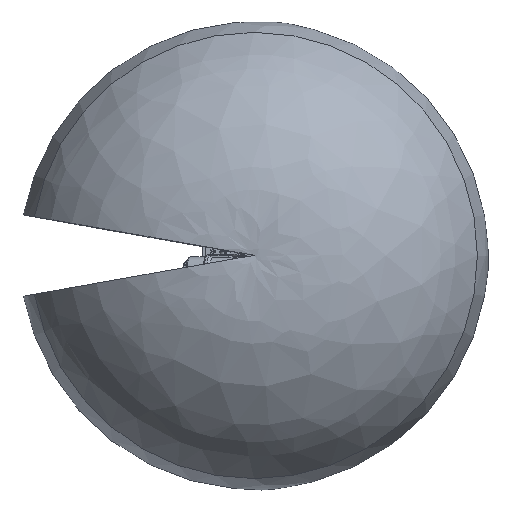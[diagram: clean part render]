
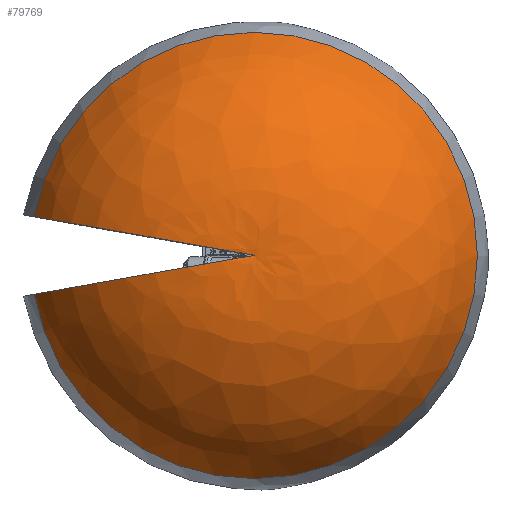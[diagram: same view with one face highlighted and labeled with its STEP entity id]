
A CAD part, top view. The second image highlights one B-rep face of the part: STEP entity #79769.
In plain terms, the highlighted free-form (B-spline) face has degree [2, 2] with [3, 9] control points.
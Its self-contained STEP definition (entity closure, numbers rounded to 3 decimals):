
#509=(
BOUNDED_SURFACE()
B_SPLINE_SURFACE(2,2,((#251605,#251606,#251607,#251608,#251609,#251610,
#251611,#251612,#251613),(#251614,#251615,#251616,#251617,#251618,#251619,
#251620,#251621,#251622),(#251623,#251624,#251625,#251626,#251627,#251628,
#251629,#251630,#251631)),.UNSPECIFIED.,.F.,.F.,.F.)
B_SPLINE_SURFACE_WITH_KNOTS((3,3),(3,2,2,2,3),(0.436,1.705),
(-2.967,-1.484,0.,1.484,
2.967),.UNSPECIFIED.)
GEOMETRIC_REPRESENTATION_ITEM()
RATIONAL_B_SPLINE_SURFACE(((1.,0.737,1.,0.737,1.,
0.737,1.,0.737,1.),(0.806,0.594,
0.806,0.594,0.806,0.594,
0.806,0.594,0.806),(1.,0.737,
1.,0.737,1.,0.737,1.,0.737,1.)))
REPRESENTATION_ITEM('')
SURFACE()
);
#10885=FACE_OUTER_BOUND('',#16760,.T.);
#16760=EDGE_LOOP('',(#74314,#74315,#74316));
#33736=CIRCLE('',#87196,2725.534);
#33737=CIRCLE('',#87197,2621.112);
#33738=CIRCLE('',#87198,2621.112);
#41333=VERTEX_POINT('',#251632);
#41334=VERTEX_POINT('',#251633);
#41335=VERTEX_POINT('',#251635);
#52328=EDGE_CURVE('',#41333,#41334,#33736,.T.);
#52329=EDGE_CURVE('',#41335,#41334,#33737,.T.);
#52330=EDGE_CURVE('',#41335,#41333,#33738,.T.);
#74314=ORIENTED_EDGE('',*,*,#52328,.T.);
#74315=ORIENTED_EDGE('',*,*,#52329,.F.);
#74316=ORIENTED_EDGE('',*,*,#52330,.T.);
#79769=ADVANCED_FACE('',(#10885),#509,.F.);
#87196=AXIS2_PLACEMENT_3D('',#251634,#108103,#108104);
#87197=AXIS2_PLACEMENT_3D('',#251636,#108105,#108106);
#87198=AXIS2_PLACEMENT_3D('',#251637,#108107,#108108);
#108103=DIRECTION('center_axis',(0.,0.,1.));
#108104=DIRECTION('ref_axis',(1.,0.,0.));
#108105=DIRECTION('center_axis',(-0.174,-0.985,
0.));
#108106=DIRECTION('ref_axis',(0.,0.,1.));
#108107=DIRECTION('center_axis',(0.174,-0.985,0.));
#108108=DIRECTION('ref_axis',(0.,0.,1.));
#251605=CARTESIAN_POINT('Ctrl Pts',(-2684.127,-473.284,
1937.73));
#251606=CARTESIAN_POINT('Ctrl Pts',(-2250.442,-2932.833,
1937.73));
#251607=CARTESIAN_POINT('Ctrl Pts',(237.546,-2715.163,
1937.73));
#251608=CARTESIAN_POINT('Ctrl Pts',(2725.534,-2497.492,
1937.73));
#251609=CARTESIAN_POINT('Ctrl Pts',(2725.534,0.,1937.73));
#251610=CARTESIAN_POINT('Ctrl Pts',(2725.534,2497.492,1937.73));
#251611=CARTESIAN_POINT('Ctrl Pts',(237.546,2715.163,1937.73));
#251612=CARTESIAN_POINT('Ctrl Pts',(-2250.442,2932.833,
1937.73));
#251613=CARTESIAN_POINT('Ctrl Pts',(-2684.127,473.284,
1937.73));
#251614=CARTESIAN_POINT('Ctrl Pts',(-1881.7,-331.795,
3685.086));
#251615=CARTESIAN_POINT('Ctrl Pts',(-1577.667,-2056.055,
3685.086));
#251616=CARTESIAN_POINT('Ctrl Pts',(166.531,-1903.458,
3685.086));
#251617=CARTESIAN_POINT('Ctrl Pts',(1910.728,-1750.86,
3685.086));
#251618=CARTESIAN_POINT('Ctrl Pts',(1910.728,0.,3685.086));
#251619=CARTESIAN_POINT('Ctrl Pts',(1910.728,1750.86,3685.086));
#251620=CARTESIAN_POINT('Ctrl Pts',(166.531,1903.458,3685.086));
#251621=CARTESIAN_POINT('Ctrl Pts',(-1577.667,2056.055,3685.086));
#251622=CARTESIAN_POINT('Ctrl Pts',(-1881.7,331.795,
3685.086));
#251623=CARTESIAN_POINT('Ctrl Pts',(0.,0.,
3427.639));
#251624=CARTESIAN_POINT('Ctrl Pts',(0.,0.,
3427.639));
#251625=CARTESIAN_POINT('Ctrl Pts',(0.,0.,
3427.639));
#251626=CARTESIAN_POINT('Ctrl Pts',(0.,0.,
3427.639));
#251627=CARTESIAN_POINT('Ctrl Pts',(0.,0.,3427.639));
#251628=CARTESIAN_POINT('Ctrl Pts',(0.,0.,
3427.639));
#251629=CARTESIAN_POINT('Ctrl Pts',(0.,0.,
3427.639));
#251630=CARTESIAN_POINT('Ctrl Pts',(0.,0.,
3427.639));
#251631=CARTESIAN_POINT('Ctrl Pts',(0.,0.,
3427.639));
#251632=CARTESIAN_POINT('',(-2684.127,-473.284,1937.73));
#251633=CARTESIAN_POINT('',(-2684.127,473.284,1937.73));
#251634=CARTESIAN_POINT('Origin',(0.,0.,1937.73));
#251635=CARTESIAN_POINT('',(0.,0.,
3427.639));
#251636=CARTESIAN_POINT('Origin',(-344.683,60.777,830.));
#251637=CARTESIAN_POINT('Origin',(-344.683,-60.777,830.));
